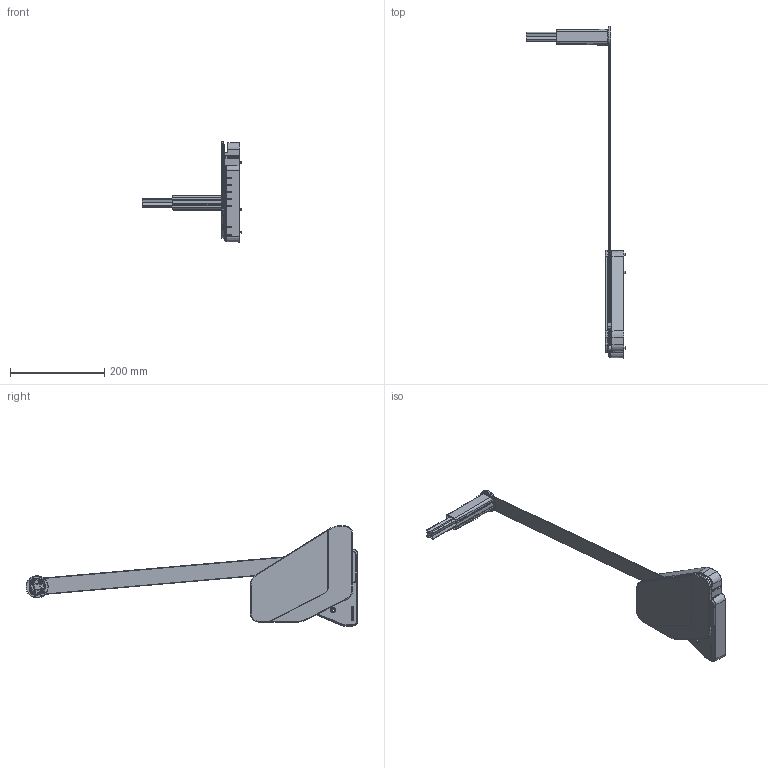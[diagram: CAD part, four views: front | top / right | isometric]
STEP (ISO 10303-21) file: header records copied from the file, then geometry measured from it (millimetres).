
FILE_DESCRIPTION((''),'2;1');
FILE_NAME('238278-RE_SW0001','2023-02-06T07:58:57',('1ke04'),('Kesseboehmer'),'CREO PARAMETRIC BY PTC INC, 2020414','CREO PARAMETRIC BY PTC INC, 2020414','');
FILE_SCHEMA(('AUTOMOTIVE_DESIGN { 1 0 10303 214 1 1 1 1 }'));
Products named in the file (1): 238278-RE_SW0001
Bounding box: 211 x 704.42 x 212.35 mm (x, y, z)
Volume: 397523.3 mm3; surface area: 352188.8 mm2
Topology: 2 solids, 2 shells, 3055 faces, 7578 edges, 4563 vertices
Faces by surface type: plane 1793, cylinder 762, torus 209, cone 117, extrusion 107, bspline 58, sphere 9
Entity records: 117437 total; most frequent: CARTESIAN_POINT 23753, ORIENTED_EDGE 15136, DIRECTION 15089, EDGE_CURVE 7568, AXIS2_PLACEMENT_3D 5290, VERTEX_POINT 4563, VECTOR 4506, LINE 4399
